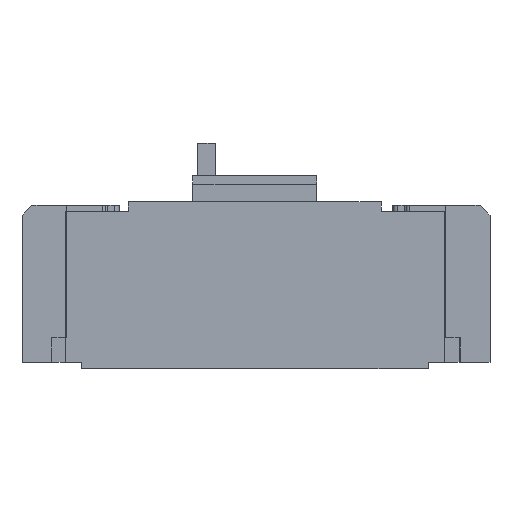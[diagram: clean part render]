
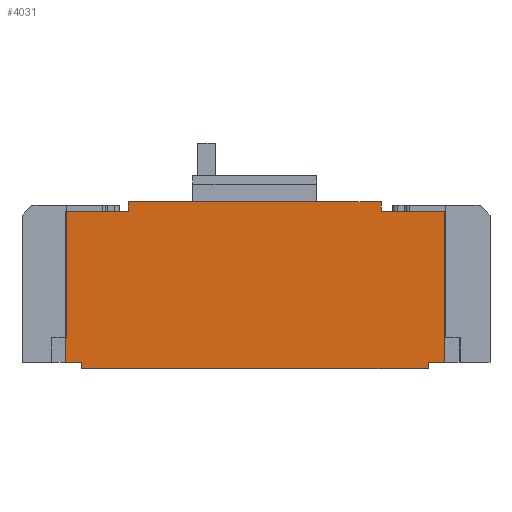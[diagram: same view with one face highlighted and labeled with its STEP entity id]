
A CAD part, left-side view. The second image highlights one B-rep face of the part: STEP entity #4031.
In plain terms, the highlighted planar face has unit normal (-1, 0, 0).
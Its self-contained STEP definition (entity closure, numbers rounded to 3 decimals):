
#2725 = VERTEX_POINT( '', #7918 );
#2731 = VERTEX_POINT( '', #7924 );
#3119 = VERTEX_POINT( '', #8351 );
#3233 = VERTEX_POINT( '', #8477 );
#3359 = EDGE_CURVE( '', #7239, #2731, #8620, .T. );
#3497 = VERTEX_POINT( '', #8768 );
#4031 = ADVANCED_FACE( '', ( #9373 ), #9374, .F. );
#4167 = EDGE_CURVE( '', #2725, #6393, #9522, .T. );
#4477 = EDGE_CURVE( '', #3233, #3497, #9859, .T. );
#4511 = EDGE_CURVE( '', #7749, #6159, #9896, .T. );
#4543 = EDGE_CURVE( '', #4987, #2725, #9931, .T. );
#4715 = EDGE_CURVE( '', #6159, #3119, #10137, .T. );
#4857 = EDGE_CURVE( '', #7239, #3497, #10285, .T. );
#4987 = VERTEX_POINT( '', #10423 );
#5347 = EDGE_CURVE( '', #5749, #4987, #10820, .T. );
#5689 = EDGE_CURVE( '', #3233, #7803, #11191, .T. );
#5703 = EDGE_CURVE( '', #7749, #6393, #11206, .T. );
#5749 = VERTEX_POINT( '', #11254 );
#6159 = VERTEX_POINT( '', #11708 );
#6393 = VERTEX_POINT( '', #11962 );
#6403 = EDGE_CURVE( '', #2731, #5749, #11974, .T. );
#6545 = EDGE_CURVE( '', #7803, #3119, #12127, .T. );
#7239 = VERTEX_POINT( '', #12885 );
#7749 = VERTEX_POINT( '', #13450 );
#7803 = VERTEX_POINT( '', #13509 );
#7918 = CARTESIAN_POINT( '', ( -52.5, 133., 2.5 ) );
#7924 = CARTESIAN_POINT( '', ( -52.5, -7., 2.5 ) );
#8351 = CARTESIAN_POINT( '', ( -52.5, 114., 67.5 ) );
#8477 = CARTESIAN_POINT( '', ( -52.5, 12., 63.5 ) );
#8620 = LINE( '', #14629, #14630 );
#8768 = CARTESIAN_POINT( '', ( -52.5, -13.5, 63.5 ) );
#9373 = FACE_OUTER_BOUND( '', #15640, .T. );
#9374 = PLANE( '', #15641 );
#9522 = LINE( '', #15847, #15848 );
#9859 = LINE( '', #16339, #16340 );
#9896 = LINE( '', #16385, #16386 );
#9931 = LINE( '', #16435, #16436 );
#10137 = LINE( '', #16704, #16705 );
#10285 = LINE( '', #16926, #16927 );
#10423 = CARTESIAN_POINT( '', ( -52.5, 133., 0. ) );
#10820 = LINE( '', #17691, #17692 );
#11191 = LINE( '', #18224, #18225 );
#11206 = LINE( '', #18249, #18250 );
#11254 = CARTESIAN_POINT( '', ( -52.5, -7., 0. ) );
#11708 = CARTESIAN_POINT( '', ( -52.5, 114., 63.5 ) );
#11962 = CARTESIAN_POINT( '', ( -52.5, 139.5, 2.5 ) );
#11974 = LINE( '', #19324, #19325 );
#12127 = LINE( '', #19561, #19562 );
#12885 = CARTESIAN_POINT( '', ( -52.5, -13.5, 2.5 ) );
#13450 = CARTESIAN_POINT( '', ( -52.5, 139.5, 63.5 ) );
#13509 = CARTESIAN_POINT( '', ( -52.5, 12., 67.5 ) );
#14629 = CARTESIAN_POINT( '', ( -52.5, -19.5, 2.5 ) );
#14630 = VECTOR( '', #22291, 1. );
#15640 = EDGE_LOOP( '', ( #23205, #23206, #23207, #23208, #23209, #23210, #23211, #23212, #23213, #23214, #23215, #23216 ) );
#15641 = AXIS2_PLACEMENT_3D( '', #23217, #23218, #23219 );
#15847 = CARTESIAN_POINT( '', ( -52.5, 133., 2.5 ) );
#15848 = VECTOR( '', #23364, 1. );
#16339 = CARTESIAN_POINT( '', ( -52.5, 145.5, 63.5 ) );
#16340 = VECTOR( '', #23736, 1. );
#16385 = CARTESIAN_POINT( '', ( -52.5, 145.5, 63.5 ) );
#16386 = VECTOR( '', #23772, 1. );
#16435 = CARTESIAN_POINT( '', ( -52.5, 133., 0. ) );
#16436 = VECTOR( '', #23811, 1. );
#16704 = CARTESIAN_POINT( '', ( -52.5, 114., 63.5 ) );
#16705 = VECTOR( '', #24274, 1. );
#16926 = CARTESIAN_POINT( '', ( -52.5, -13.5, 31.75 ) );
#16927 = VECTOR( '', #24375, 1. );
#17691 = CARTESIAN_POINT( '', ( -52.5, -7., 0. ) );
#17692 = VECTOR( '', #24896, 1. );
#18224 = CARTESIAN_POINT( '', ( -52.5, 12., 63.5 ) );
#18225 = VECTOR( '', #25236, 1. );
#18249 = CARTESIAN_POINT( '', ( -52.5, 139.5, 31.75 ) );
#18250 = VECTOR( '', #25249, 1. );
#19324 = CARTESIAN_POINT( '', ( -52.5, -7., 2.5 ) );
#19325 = VECTOR( '', #26008, 1. );
#19561 = CARTESIAN_POINT( '', ( -52.5, 114., 67.5 ) );
#19562 = VECTOR( '', #26160, 1. );
#22291 = DIRECTION( '', ( 0., 1., 0. ) );
#23205 = ORIENTED_EDGE( '', *, *, #4857, .T. );
#23206 = ORIENTED_EDGE( '', *, *, #4477, .F. );
#23207 = ORIENTED_EDGE( '', *, *, #5689, .T. );
#23208 = ORIENTED_EDGE( '', *, *, #6545, .T. );
#23209 = ORIENTED_EDGE( '', *, *, #4715, .F. );
#23210 = ORIENTED_EDGE( '', *, *, #4511, .F. );
#23211 = ORIENTED_EDGE( '', *, *, #5703, .T. );
#23212 = ORIENTED_EDGE( '', *, *, #4167, .F. );
#23213 = ORIENTED_EDGE( '', *, *, #4543, .F. );
#23214 = ORIENTED_EDGE( '', *, *, #5347, .F. );
#23215 = ORIENTED_EDGE( '', *, *, #6403, .F. );
#23216 = ORIENTED_EDGE( '', *, *, #3359, .F. );
#23217 = CARTESIAN_POINT( '', ( -52.5, 0., 0. ) );
#23218 = DIRECTION( '', ( 1., 0., 0. ) );
#23219 = DIRECTION( '', ( 0., 0., -1. ) );
#23364 = DIRECTION( '', ( 0., 1., 0. ) );
#23736 = DIRECTION( '', ( 0., -1., 0. ) );
#23772 = DIRECTION( '', ( 0., -1., 0. ) );
#23811 = DIRECTION( '', ( 0., 0., 1. ) );
#24274 = DIRECTION( '', ( 0., 0., 1. ) );
#24375 = DIRECTION( '', ( 0., 0., 1. ) );
#24896 = DIRECTION( '', ( 0., 1., 0. ) );
#25236 = DIRECTION( '', ( 0., 0., 1. ) );
#25249 = DIRECTION( '', ( 0., 0., -1. ) );
#26008 = DIRECTION( '', ( 0., 0., -1. ) );
#26160 = DIRECTION( '', ( 0., 1., 0. ) );
